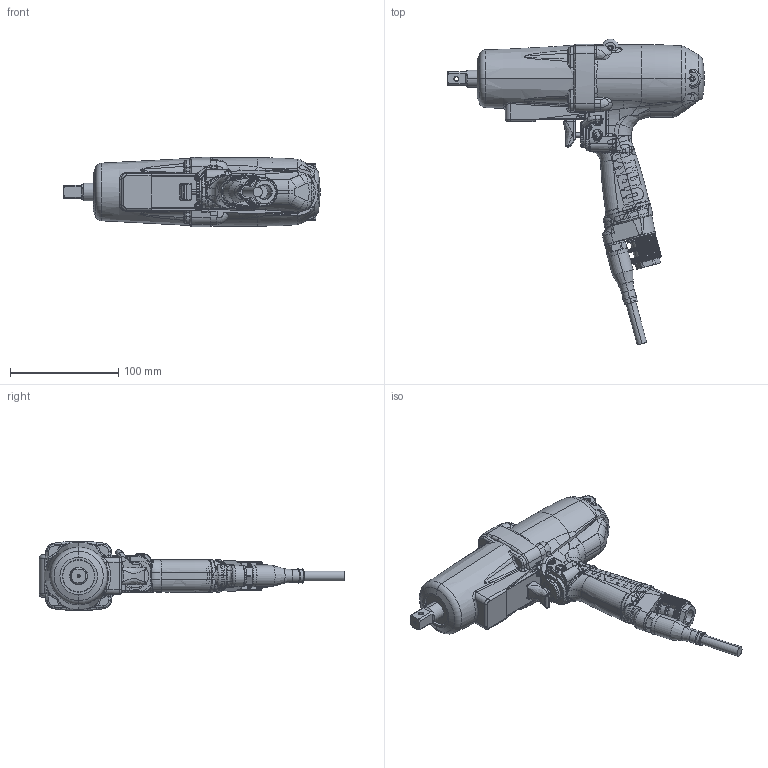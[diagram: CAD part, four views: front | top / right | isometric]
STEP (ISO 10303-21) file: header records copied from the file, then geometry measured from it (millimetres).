
FILE_DESCRIPTION (( 'STEP AP203' ), '1' );
FILE_NAME ('UA1000AMC.STEP', '2015-07-10T06:40:03', ( 'GIKAI' ), ( 'Hewlett-Packard Company' ), 'SwSTEP 2.0', 'SolidWorks 2006104', '' );
FILE_SCHEMA (( 'CONFIG_CONTROL_DESIGN' ));
Products named in the file (10): UA1000AMC; 17G-454-9_蹬怮椔; 17G-439-9_蹬怮椔; 17G-025-9_蹬怮椔; 173-212-0_蹬怮椔; 17G-035-8_蹬怮椔; 17G-842-3A_蹬怮椔; 17G-780-A_蹬怮椔; 149-079-2_蹬怮椔; 17G-840-9_蹬怮椔
Assembly tree (9 placements, depth 2):
  UA1000AMC
    17G-454-9_蹬怮椔
    149-079-2_蹬怮椔
    17G-025-9_蹬怮椔
    17G-035-8_蹬怮椔
    17G-439-9_蹬怮椔
    173-212-0_蹬怮椔
    17G-780-A_蹬怮椔
    17G-840-9_蹬怮椔
    17G-842-3A_蹬怮椔
Bounding box: 236.55 x 281.99 x 63.92 mm (x, y, z)
Volume: 382002.1 mm3; surface area: 253162.4 mm2
Topology: 7 solids, 19 shells, 3608 faces, 9753 edges, 6169 vertices
Faces by surface type: plane 1334, cylinder 950, bspline 770, torus 402, cone 125, sphere 27
Entity records: 353485 total; most frequent: CARTESIAN_POINT 269150, ORIENTED_EDGE 19089, DIRECTION 14963, EDGE_CURVE 9688, VERTEX_POINT 6166, AXIS2_PLACEMENT_3D 5621, LINE 3721, VECTOR 3721
